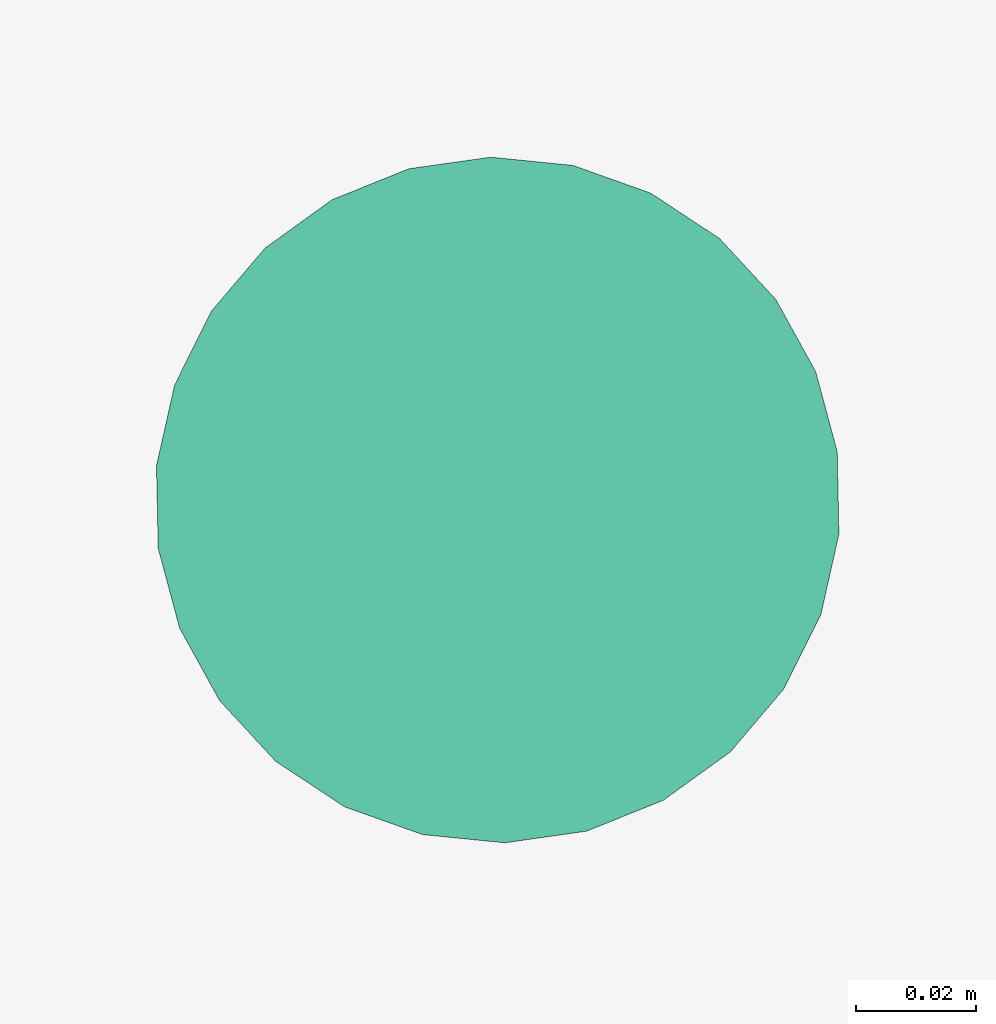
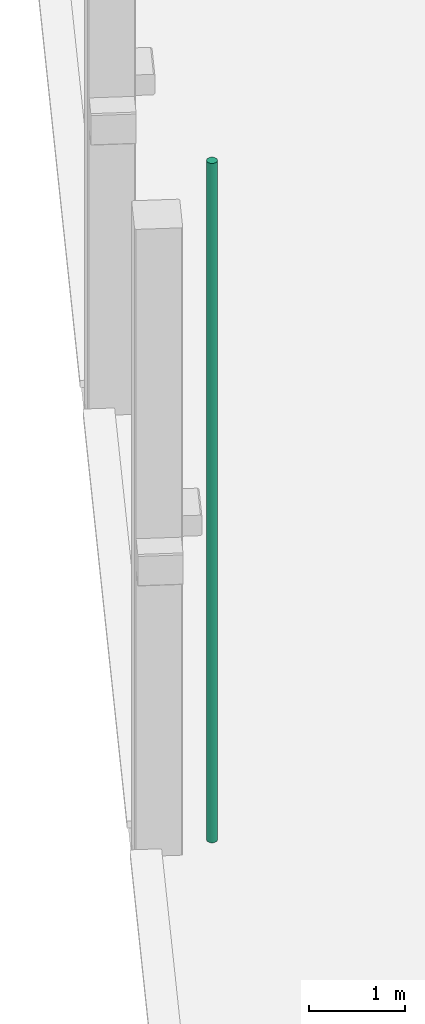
# One storey, part 65 of 91: 1 flow segment.
"""IFC2X3 building model written with IfcOpenShell, lengths in metres."""

from ifc_helpers import new_model, entity, si_unit, converted_unit, derived_unit, direction, frame, origin, origin_2d_with_axis, place, context, subcontext, project, spatial, circle, extrude, type_object, element, save


model = new_model("IFC2X3")

# Units and contexts
model_context = context("Model", 3, precision=1e-05, world=origin(), true_north=direction((0.894925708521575, 0.446215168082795)))
context_of_model = context(None, 3, precision=1e-05, world=origin(), true_north=direction((0.894925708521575, 0.446215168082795)))
body_context = subcontext(model_context, "Body", "Model", "MODEL_VIEW")
ifc_project = project(units=[si_unit("LENGTHUNIT", "METRE"), si_unit("AREAUNIT", "SQUARE_METRE"), si_unit("VOLUMEUNIT", "CUBIC_METRE"), converted_unit("PLANEANGLEUNIT", "DEGREE", entity("IfcRatioMeasure", 0.0174532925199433), si_unit("PLANEANGLEUNIT", "RADIAN"), dimensions=[0, 0, 0, 0, 0, 0, 0]), si_unit("MASSUNIT", "GRAM", prefix="KILO"), si_unit("TIMEUNIT", "SECOND"), si_unit("FREQUENCYUNIT", "HERTZ"), si_unit("THERMODYNAMICTEMPERATUREUNIT", "DEGREE_CELSIUS"), derived_unit("THERMALTRANSMITTANCEUNIT", [(si_unit("MASSUNIT", "GRAM", prefix="KILO"), 1), (si_unit("THERMODYNAMICTEMPERATUREUNIT", "KELVIN"), -1), (si_unit("TIMEUNIT", "SECOND"), -3)]), derived_unit("VOLUMETRICFLOWRATEUNIT", [(si_unit("LENGTHUNIT", "METRE"), 3), (si_unit("TIMEUNIT", "SECOND"), -1)]), si_unit("ELECTRICCURRENTUNIT", "AMPERE"), si_unit("ELECTRICVOLTAGEUNIT", "VOLT"), si_unit("POWERUNIT", "WATT"), si_unit("FORCEUNIT", "NEWTON", prefix="KILO"), si_unit("ILLUMINANCEUNIT", "LUX"), si_unit("LUMINOUSFLUXUNIT", "LUMEN"), si_unit("LUMINOUSINTENSITYUNIT", "CANDELA"), si_unit("PRESSUREUNIT", "PASCAL")], contexts=[model_context, context_of_model])

# Site, building, storey
site_placement = place(None, frame((218.228324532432, 584.720189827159, 0.0), z_axis=(0.0, 0.0, 1.0), x_axis=(0.446215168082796, 0.894925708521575, 0.0)))
site = spatial("IfcSite", under=ifc_project, at=site_placement, Name="Default", CompositionType="ELEMENT")
building_placement = place(site_placement, origin())
building = spatial("IfcBuilding", under=site, at=building_placement, CompositionType="ELEMENT")
storey_placement = place(building_placement, origin())
storey = spatial("IfcBuildingStorey", under=building, at=storey_placement, Name="0 - Piano Terra", CompositionType="ELEMENT", Elevation=0.0)

# Flow segment
pipe_segment_type = type_object("IfcPipeSegmentType", Name="Tubazione:Pluviale-Tubazione", PredefinedType="NOTDEFINED")
flow_segment_placement = place(storey_placement, frame((19.1170842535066, 5.24017573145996, 0.0)))
element("IfcFlowSegment", 1, at=flow_segment_placement, inside=storey, type_object=pipe_segment_type, Name="Tubazione:Pluviale-Tubazione", ObjectType="Tubazione:Pluviale-Tubazione", context=body_context, shape_type="SweptSolid", body=[
    extrude(circle(Radius=0.05715, at=origin_2d_with_axis()), frame((0.0587452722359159, 0.0587452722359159, 0.0)), (0.0, 0.0, 1.0), 8.61),
])

save(model, "model.ifc")
